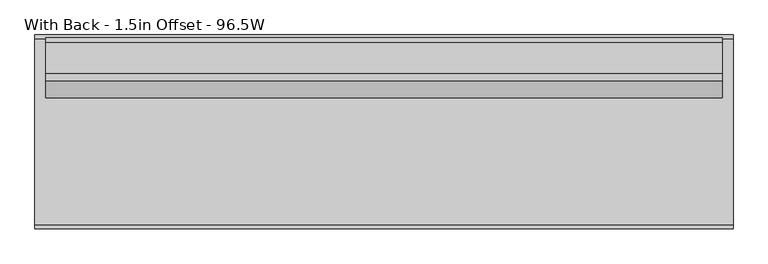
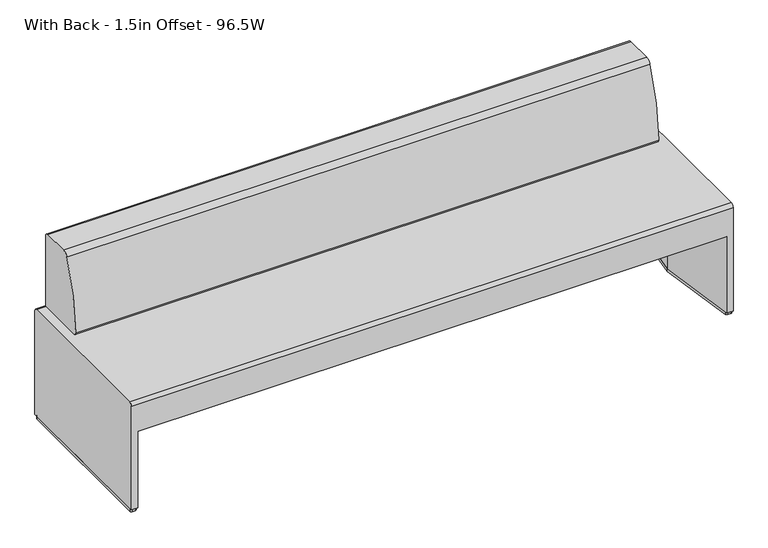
"""IFC4 building model written with IfcOpenShell, lengths in millimetres: furniture geometry, Coalesse_AM_Seating_Bench_Together_Straight : With Back - 1.5in Offset - 96.5W."""

from ifc_helpers import new_model, si_unit, point, frame, frame_2d, origin, origin_with_axes, place, context, project, spatial, polyline, circle_curve, trimmed, segment, composite_curve, outline, extrude, source, transform, mapped, element, save
from ifc_brep_helpers import plane_surface, cylinder_surface, advanced_brep


def with_back_1_5in_offset_96_5w_83d29b02(model_context):
    return source(origin(), model_context, "Body", "SolidModel", [
        advanced_brep(
        [(550.9224085, 12.7, 471.2287949), (550.9224085, 0.0, 458.5287949), (550.9224085, 0.0, 12.7976677), (550.9224085, 680.4865973, 12.7976677), (550.9224085, 680.4865973, 458.5287949), (550.9224085, 667.7865973, 471.2287949), (-1900.1775915, 12.7, 471.2287949), (-1900.1775915, 667.7865973, 471.2287949), (-1900.1775915, 680.4865973, 458.5287949), (-1900.1775915, 680.4865973, 12.7976677), (-1900.1775915, 0.0, 12.7976677), (-1900.1775915, 0.0, 458.5287949), (-1874.0008116, 0.0, 12.7976677), (-1874.0008116, 0.0, 343.3718099), (524.7467103, 0.0, 343.3718099), (524.7456286, 0.0, 12.7976677), (-1829.6693111, 337.8527218, 343.3718099), (-1874.3078635, 680.4865973, 343.3718099), (525.0526806, 680.4865973, 343.3718099), (480.4141281, 337.8527218, 343.3718099), (525.0537419, 680.4865973, 12.7976677), (-1874.3089248, 680.4865973, 12.7976677), (-1829.6693111, 337.8527218, 12.7976677), (480.4141281, 337.8527218, 12.7976677)],
        [
            (0, 1, circle_curve(frame((550.9224085, 12.7, 458.5287949), z_axis=(1.0, 0.0, 0.0), x_axis=(0.0, 1.0, 0.0)), 12.7)),
            (1, 2),
            (2, 3),
            (3, 4),
            (4, 5, circle_curve(frame((550.9224085, 667.7865973, 458.5287949), z_axis=(1.0, 0.0, 0.0), x_axis=(0.0, 1.0, 0.0)), 12.7)),
            (5, 0),
            (6, 7),
            (7, 8, circle_curve(frame((-1900.1775915, 667.7865973, 458.5287949), z_axis=(-1.0, 0.0, 0.0), x_axis=(0.0, 1.0, 0.0)), 12.7)),
            (8, 9),
            (9, 10),
            (10, 11),
            (11, 6, circle_curve(frame((-1900.1775915, 12.7, 458.5287949), z_axis=(-1.0, 0.0, 0.0), x_axis=(0.0, 1.0, 0.0)), 12.7)),
            (0, 6),
            (11, 1),
            (10, 12),
            (12, 13),
            (13, 14),
            (14, 15),
            (15, 2),
            (16, 17),
            (17, 18),
            (18, 19),
            (19, 14),
            (13, 16),
            (3, 20),
            (20, 18),
            (17, 21),
            (21, 9),
            (8, 4),
            (7, 5),
            (22, 12),
            (21, 22),
            (16, 22),
            (23, 20),
            (15, 23),
            (19, 23),
        ],
        [
            plane_surface(frame((550.9224085, 25.4, 458.5287949), z_axis=(1.0, 0.0, 0.0), x_axis=(0.0, 0.0, 1.0))),
            plane_surface(frame((-1900.1775915, 25.4, 458.5287949), z_axis=(-1.0, 0.0, 0.0), x_axis=(0.0, 0.0, -1.0))),
            cylinder_surface(frame((-1900.1775915, 12.7, 458.5287949), z_axis=(1.0, 0.0, 0.0), x_axis=(0.0, 1.0, 0.0)), 12.7),
            plane_surface(frame((550.9224085, 0.0, 458.5287949), z_axis=(0.0, -1.0, 0.0), x_axis=(-1.0, 0.0, 0.0))),
            plane_surface(frame((550.9224085, 0.0, 343.3718099), z_axis=(0.0, 0.0, -1.0), x_axis=(-1.0, 0.0, 0.0))),
            plane_surface(frame((550.9224085, 680.4865973, 343.3718099), z_axis=(0.0, 1.0, 0.0), x_axis=(-1.0, 0.0, 0.0))),
            cylinder_surface(frame((-1900.1775915, 667.7865973, 458.5287949), z_axis=(1.0, 0.0, 0.0), x_axis=(0.0, 1.0, 0.0)), 12.7),
            plane_surface(frame((550.9224085, 667.7865973, 471.2287949), z_axis=(0.0, 0.0, 1.0), x_axis=(-1.0, 0.0, 0.0))),
            plane_surface(frame((-1874.3089248, 680.4947435, 12.7976677), z_axis=(0.0, 0.0, -1.0), x_axis=(0.1291888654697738, -0.9916200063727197, 0.0))),
            plane_surface(frame((-1829.6693111, 337.8527218, 343.3718099), z_axis=(0.9916200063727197, 0.1291888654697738, 0.0), x_axis=(0.0, 0.0, -1.0))),
            plane_surface(frame((-1874.0008116, 0.0082432, 343.3718099), z_axis=(0.9915004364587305, -0.13010336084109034, 0.0), x_axis=(0.0, 0.0, -1.0))),
            plane_surface(frame((480.4141281, 337.8527218, 12.7976677), z_axis=(0.0, 0.0, -1.0), x_axis=(-0.13010336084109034, 0.9915004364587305, 0.0))),
            plane_surface(frame((480.4141281, 337.8527218, 343.3718099), z_axis=(-0.9915004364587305, -0.13010336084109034, 0.0), x_axis=(0.0, 0.0, -1.0))),
            plane_surface(frame((525.0537419, 680.4947435, 343.3718099), z_axis=(-0.9916200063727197, 0.12918886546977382, 0.0), x_axis=(0.0, 0.0, -1.0))),
        ],
        [
            (0, [[1, 2, 3, 4, 5, 6]]),
            (1, [[7, 8, 9, 10, 11, 12]]),
            (2, [[-1, 13, -12, 14]]),
            (3, [[-2, -14, -11, 15, 16, 17, 18, 19]]),
            (4, [[20, 21, 22, 23, -17, 24]]),
            (5, [[-4, 25, 26, -21, 27, 28, -9, 29]]),
            (6, [[-5, -29, -8, 30]]),
            (7, [[-6, -30, -7, -13]]),
            (8, [[31, -15, -10, -28, 32]]),
            (9, [[-32, -27, -20, 33]]),
            (10, [[-31, -33, -24, -16]]),
            (11, [[34, -25, -3, -19, 35]]),
            (12, [[-35, -18, -23, 36]]),
            (13, [[-34, -36, -22, -26]]),
        ],
    ),
        extrude(outline(composite_curve([segment(polyline([(543.9192067, 789.8987331), (655.2964795, 789.8987331)]), True, "CONTINUOUS"), segment(trimmed(circle_curve(frame_2d((655.2964795, 774.6587331)), 15.24), [point((655.2964795, 789.8987331))], [point((670.5364795, 774.6587331))], False, "CARTESIAN"), True, "CONTINUOUS"), segment(polyline([(670.5364795, 774.6587331), (670.5364795, 471.2287949), (472.3170333, 471.2287949)]), True, "CONTINUOUS"), segment(trimmed(circle_curve(frame_2d((472.3170333, 483.9287949)), 12.7), [point((472.3170333, 471.2287949))], [point((459.6227142, 484.3086129))], False, "CARTESIAN"), True, "CONTINUOUS"), segment(trimmed(circle_curve(frame_2d((1300.8534094, 459.138724)), 841.6071565), [point((459.6227142, 484.3086129))], [point((520.3637544, 774.0013994))], False, "CARTESIAN"), True, "CONTINUOUS"), segment(trimmed(circle_curve(frame_2d((543.9192067, 764.4987331)), 25.4), [point((520.3637544, 774.0013994))], [point((543.9192067, 789.8987331))], False, "CARTESIAN"), True, "CONTINUOUS")], self_intersect=False)), frame((-1862.0775915, 0.0, 0.0), z_axis=(1.0, 0.0, 0.0), x_axis=(0.0, 1.0, 0.0)), (0.0, 0.0, 1.0), 2374.9),
        extrude(outline(composite_curve([segment(polyline([(-1830.1253033, 342.7173042), (-1875.1256906, 11.5995062)]), True, "CONTINUOUS"), segment(trimmed(circle_curve(frame_2d((-1881.4178483, 12.4546385)), 6.35), [point((-1875.1256906, 11.5995062))], [point((-1881.4230349, 6.1046406))], False, "CARTESIAN"), True, "CONTINUOUS"), segment(polyline([(-1881.4230349, 6.1046406), (-1893.8802997, 6.1148157)]), True, "CONTINUOUS"), segment(trimmed(circle_curve(frame_2d((-1893.8751131, 12.4648135)), 6.35), [point((-1893.8802997, 6.1148157))], [point((-1900.225111, 12.4700002))], False, "CARTESIAN"), True, "CONTINUOUS"), segment(polyline([(-1900.225111, 12.4700002), (-1899.6895947, 668.1010803)]), True, "CONTINUOUS"), segment(trimmed(circle_curve(frame_2d((-1893.3395969, 668.0958937)), 6.35), [point((-1899.6895947, 668.1010803))], [point((-1893.3344102, 674.4458915))], False, "CARTESIAN"), True, "CONTINUOUS"), segment(polyline([(-1893.3344102, 674.4458915), (-1880.8113928, 674.4356628)]), True, "CONTINUOUS"), segment(trimmed(circle_curve(frame_2d((-1880.8171357, 667.4047129)), 7.0309522), [point((-1880.8113928, 674.4356628))], [point((-1873.8487233, 668.3404046))], False, "CARTESIAN"), True, "CONTINUOUS"), segment(polyline([(-1873.8487233, 668.3404046), (-1830.1253033, 342.7173042)]), True, "CONTINUOUS")], self_intersect=False)), origin_with_axes(), (0.0, 0.0, 1.0), 12.7976677),
        extrude(outline(composite_curve([segment(polyline([(480.8701204, 342.7173042), (524.5935403, 668.3404046)]), True, "CONTINUOUS"), segment(trimmed(circle_curve(frame_2d((531.5619527, 667.4047129)), 7.0309522), [point((524.5935403, 668.3404046))], [point((531.5562098, 674.4356628))], False, "CARTESIAN"), True, "CONTINUOUS"), segment(polyline([(531.5562098, 674.4356628), (544.0792272, 674.4458915)]), True, "CONTINUOUS"), segment(trimmed(circle_curve(frame_2d((544.0844139, 668.0958937)), 6.35), [point((544.0792272, 674.4458915))], [point((550.4344118, 668.1010803))], False, "CARTESIAN"), True, "CONTINUOUS"), segment(polyline([(550.4344118, 668.1010803), (550.969928, 12.4700002)]), True, "CONTINUOUS"), segment(trimmed(circle_curve(frame_2d((544.6199301, 12.4648135)), 6.35), [point((550.969928, 12.4700002))], [point((544.6251168, 6.1148157))], False, "CARTESIAN"), True, "CONTINUOUS"), segment(polyline([(544.6251168, 6.1148157), (532.167852, 6.1046406)]), True, "CONTINUOUS"), segment(trimmed(circle_curve(frame_2d((532.1626653, 12.4546385)), 6.35), [point((532.167852, 6.1046406))], [point((525.8705076, 11.5995062))], False, "CARTESIAN"), True, "CONTINUOUS"), segment(polyline([(525.8705076, 11.5995062), (480.8701204, 342.7173042)]), True, "CONTINUOUS")], self_intersect=False)), origin_with_axes(), (0.0, 0.0, 1.0), 12.7976677),
    ])


if __name__ == "__main__":
    model = new_model("IFC4")
    model_context = context("Model", 3, world=origin())
    ifc_project = project(units=[si_unit("LENGTHUNIT", "METRE", prefix="MILLI")], contexts=[model_context])
    site = spatial("IfcSite", under=ifc_project)
    building = spatial("IfcBuilding", under=site)
    placement = place(None, origin())
    with_back_1_5in_offset_96_5w_shape = with_back_1_5in_offset_96_5w_83d29b02(model_context)
    element("IfcFurniture", 1, ObjectType="Coalesse_AM_Seating_Bench_Together_Straight : With Back - 1.5in Offset - 96.5W", at=placement, inside=building, context=model_context, shape_type="MappedRepresentation", body=[
        mapped(with_back_1_5in_offset_96_5w_shape, transform((0.0, 0.0, 0.0), x_axis=(1.0, 0.0, 0.0), y_axis=(0.0, 1.0, 0.0), z_axis=(0.0, 0.0, 1.0))),
    ])
    save(model, "model.ifc")
